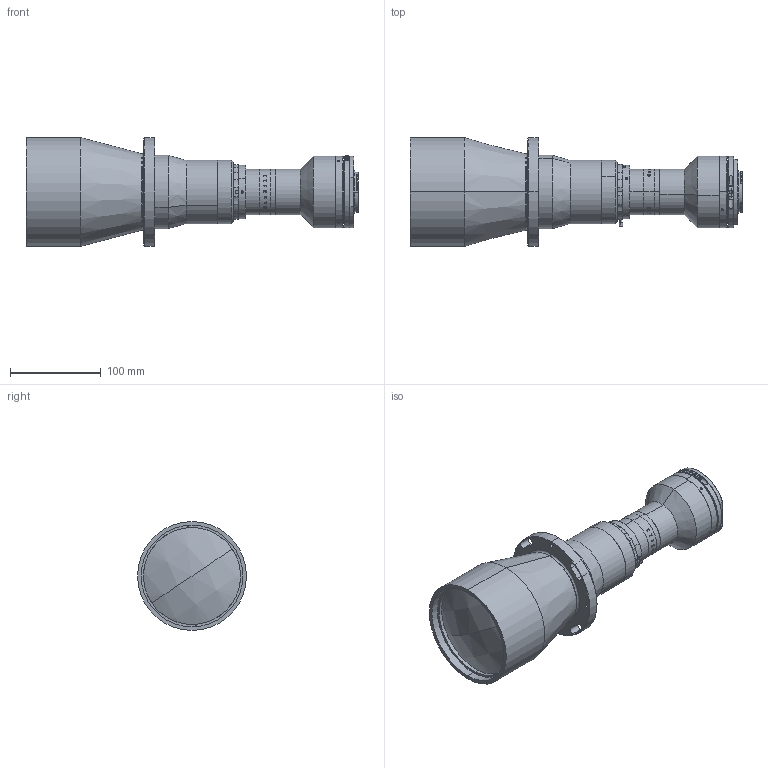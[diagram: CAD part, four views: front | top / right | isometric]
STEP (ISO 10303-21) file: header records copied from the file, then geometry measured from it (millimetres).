
FILE_DESCRIPTION (( 'STEP AP203' ), '1' );
FILE_NAME ('XF-PTL09232-F-VI.STEP', '2019-07-22T06:15:03', ( 'lawlynn' ), ( '' ), 'SwSTEP 2.0', 'SolidWorks 2014', '' );
FILE_SCHEMA (( 'CONFIG_CONTROL_DESIGN' ));
Length unit declared in the file: millimetre
Products named in the file (1): XF-PTL09232-F-VI
Bounding box: 365.93 x 120 x 120 mm (x, y, z)
Surface area: 154477.6 mm2 (no closed solid volume)
Topology: 0 solids, 49 shells, 290 faces, 1422 edges, 1179 vertices
Faces by surface type: cylinder 154, plane 78, cone 41, torus 12, sphere 4, bspline 1
Entity records: 21960 total; most frequent: CARTESIAN_POINT 11100, DIRECTION 2140, ORIENTED_EDGE 1955, EDGE_CURVE 1420, VERTEX_POINT 1179, AXIS2_PLACEMENT_3D 840, CIRCLE 550, LINE 460
